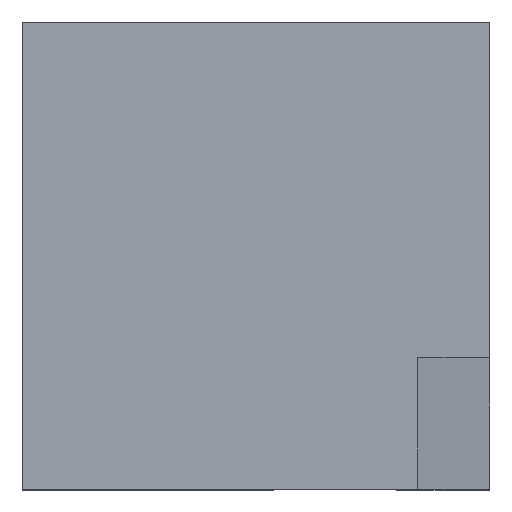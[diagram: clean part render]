
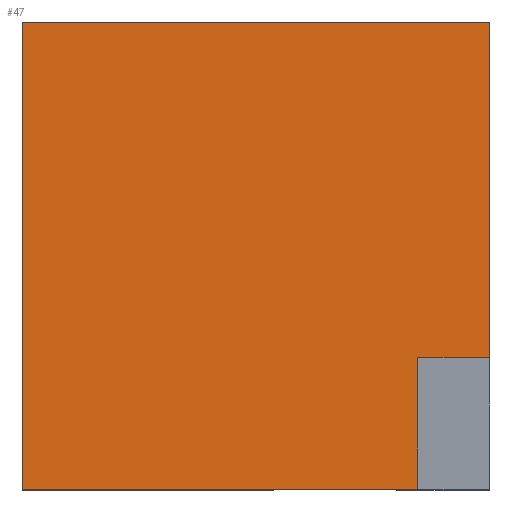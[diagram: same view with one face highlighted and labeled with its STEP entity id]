
A CAD part, top view. The second image highlights one B-rep face of the part: STEP entity #47.
In plain terms, the highlighted planar face has unit normal (0, 0, 1).
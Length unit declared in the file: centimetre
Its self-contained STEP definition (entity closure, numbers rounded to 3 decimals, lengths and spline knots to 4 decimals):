
#16 = CARTESIAN_POINT ( 'NONE',  ( 0., 1000., 1000. ) ) ;
#22 = DIRECTION ( 'NONE',  ( 0., -1., 0. ) ) ;
#26 = ORIENTED_EDGE ( 'NONE', *, *, #701, .T. ) ;
#40 = LINE ( 'NONE', #809, #625 ) ;
#47 = ADVANCED_FACE ( 'NONE', ( #87 ), #849, .T. ) ;
#54 = VERTEX_POINT ( 'NONE', #855 ) ;
#57 = EDGE_CURVE ( 'NONE', #269, #70, #228, .T. ) ;
#64 = EDGE_LOOP ( 'NONE', ( #517, #581, #341, #26, #899, #639 ) ) ;
#70 = VERTEX_POINT ( 'NONE', #515 ) ;
#87 = FACE_OUTER_BOUND ( 'NONE', #64, .T. ) ;
#108 = DIRECTION ( 'NONE',  ( 0., 1., 0. ) ) ;
#116 = EDGE_CURVE ( 'NONE', #70, #54, #585, .T. ) ;
#164 = DIRECTION ( 'NONE',  ( -1., 0., 0. ) ) ;
#178 = CARTESIAN_POINT ( 'NONE',  ( 1000., 1000., 1000. ) ) ;
#228 = LINE ( 'NONE', #235, #469 ) ;
#235 = CARTESIAN_POINT ( 'NONE',  ( 846.0396, 281.6818, 1000. ) ) ;
#250 = DIRECTION ( 'NONE',  ( 1., 0., 0. ) ) ;
#269 = VERTEX_POINT ( 'NONE', #635 ) ;
#281 = EDGE_CURVE ( 'NONE', #269, #587, #843, .T. ) ;
#297 = CARTESIAN_POINT ( 'NONE',  ( 0., 0., 1000. ) ) ;
#338 = VERTEX_POINT ( 'NONE', #676 ) ;
#341 = ORIENTED_EDGE ( 'NONE', *, *, #281, .T. ) ;
#343 = VECTOR ( 'NONE', #22, 100. ) ;
#371 = DIRECTION ( 'NONE',  ( 0., 0., 1. ) ) ;
#376 = CARTESIAN_POINT ( 'NONE',  ( 846.0396, 281.6818, 1000. ) ) ;
#416 = VERTEX_POINT ( 'NONE', #853 ) ;
#434 = VECTOR ( 'NONE', #108, 100. ) ;
#439 = CARTESIAN_POINT ( 'NONE',  ( 1000., 1000., 1000. ) ) ;
#446 = DIRECTION ( 'NONE',  ( 1., 0., 0. ) ) ;
#469 = VECTOR ( 'NONE', #164, 100. ) ;
#481 = EDGE_CURVE ( 'NONE', #416, #338, #723, .T. ) ;
#515 = CARTESIAN_POINT ( 'NONE',  ( 846.0396, 281.6818, 1000. ) ) ;
#517 = ORIENTED_EDGE ( 'NONE', *, *, #116, .F. ) ;
#523 = DIRECTION ( 'NONE',  ( -1., 0., 0. ) ) ;
#529 = EDGE_CURVE ( 'NONE', #338, #54, #597, .T. ) ;
#552 = AXIS2_PLACEMENT_3D ( 'NONE', #297, #371, #446 ) ;
#581 = ORIENTED_EDGE ( 'NONE', *, *, #57, .F. ) ;
#585 = LINE ( 'NONE', #376, #770 ) ;
#587 = VERTEX_POINT ( 'NONE', #439 ) ;
#597 = LINE ( 'NONE', #873, #692 ) ;
#625 = VECTOR ( 'NONE', #523, 100. ) ;
#635 = CARTESIAN_POINT ( 'NONE',  ( 1000., 281.6818, 1000. ) ) ;
#639 = ORIENTED_EDGE ( 'NONE', *, *, #529, .T. ) ;
#658 = DIRECTION ( 'NONE',  ( 0., -1., 0. ) ) ;
#676 = CARTESIAN_POINT ( 'NONE',  ( 0., 0., 1000. ) ) ;
#692 = VECTOR ( 'NONE', #250, 100. ) ;
#701 = EDGE_CURVE ( 'NONE', #587, #416, #40, .T. ) ;
#723 = LINE ( 'NONE', #16, #343 ) ;
#770 = VECTOR ( 'NONE', #658, 100. ) ;
#809 = CARTESIAN_POINT ( 'NONE',  ( 0., 1000., 1000. ) ) ;
#843 = LINE ( 'NONE', #178, #434 ) ;
#849 = PLANE ( 'NONE',  #552 ) ;
#853 = CARTESIAN_POINT ( 'NONE',  ( 0., 1000., 1000. ) ) ;
#855 = CARTESIAN_POINT ( 'NONE',  ( 846.0396, 0., 1000. ) ) ;
#873 = CARTESIAN_POINT ( 'NONE',  ( 0., 0., 1000. ) ) ;
#899 = ORIENTED_EDGE ( 'NONE', *, *, #481, .T. ) ;
